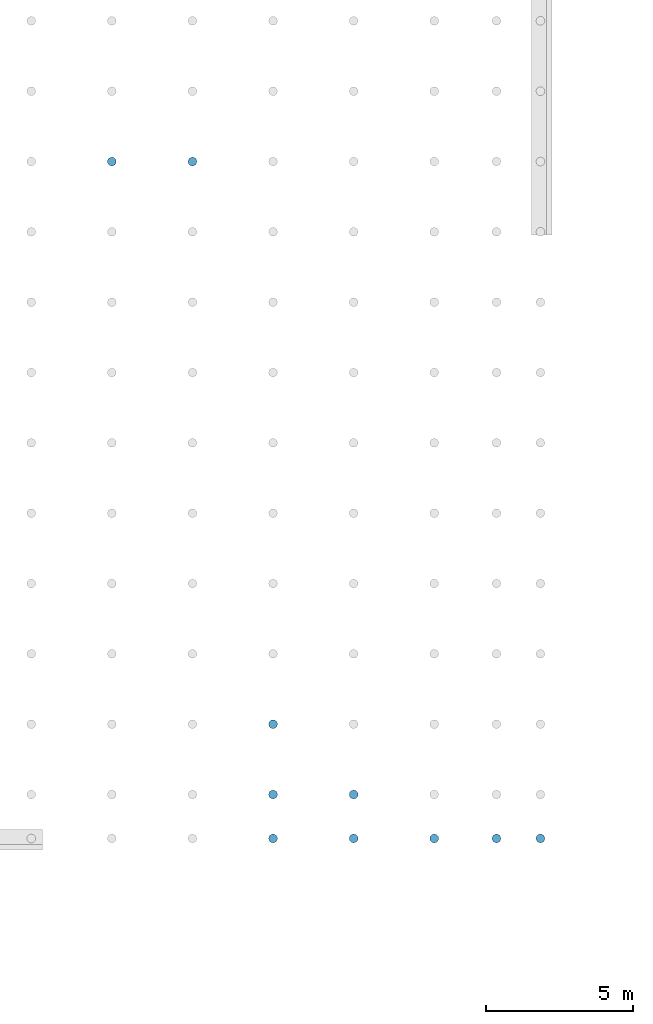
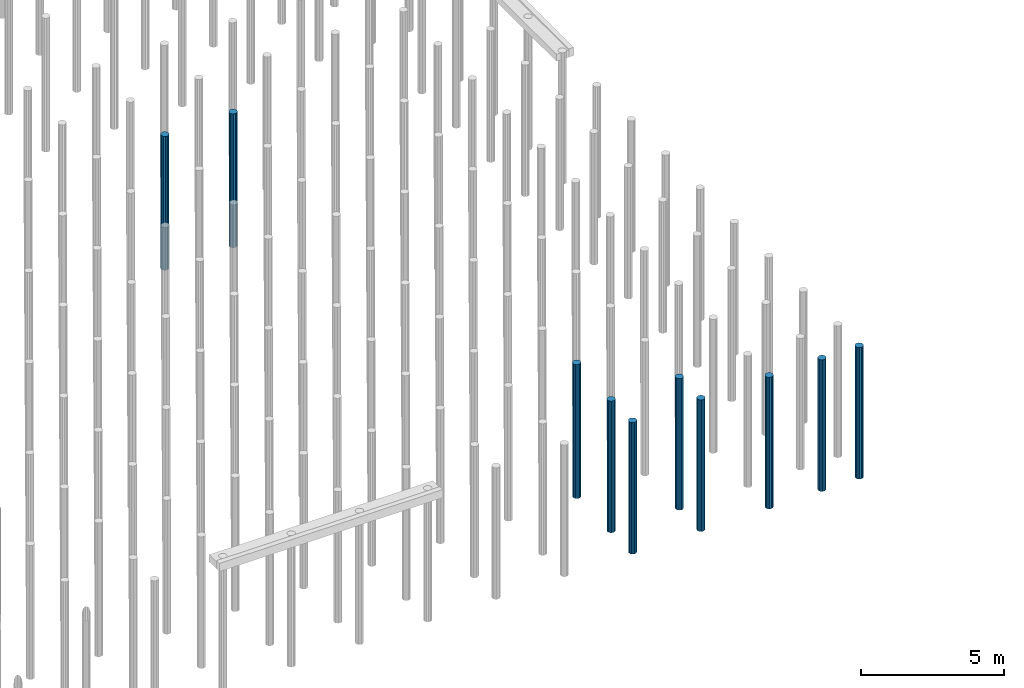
# One storey, part 18 of 102: 10 slabs.
"""IFC2X3 building model written with IfcOpenShell, lengths in millimetres."""

import ifcopenshell
import ifcopenshell.guid

model = None  # the IFC model being written
_history = None  # IfcOwnerHistory: only IFC2X3 demands one
_inside = {}  # id of a spatial element -> (the spatial element, [elements in it])
_under = {}  # id of a project, library or spatial element -> (it, [spatial elements below it])
_declared = {}  # id of a project -> (the project, [libraries it declares])
_typed = {}  # id of a type object -> (the type object, [elements of that type])
_made_of = {}  # id of a material, layer set ... -> (it, [elements and type objects made of it])


def new_model(schema):
    """Start an empty IFC model of exactly this schema.

    Asked for "IFC4X3", IfcOpenShell would pick the latest addendum, in which some entities
    have other attributes; the version numbers below select the first issue.
    IFC2X3 requires an IfcOwnerHistory on every rooted entity: one is made here for all.
    """
    global model, _history
    if schema == "IFC4X3":
        model = ifcopenshell.file(schema_version=(4, 3, 0, 0))
    else:
        model = ifcopenshell.file(schema=schema)
    _inside.clear()
    _under.clear()
    _declared.clear()
    _typed.clear()
    _made_of.clear()
    _history = None
    if model.schema == "IFC2X3":
        org = make("IfcOrganization", Name="unknown")
        user = make(
            "IfcPersonAndOrganization",
            ThePerson=make("IfcPerson", FamilyName="unknown"),
            TheOrganization=org,
        )
        app = make(
            "IfcApplication",
            ApplicationDeveloper=org,
            Version="unknown",
            ApplicationFullName="unknown",
            ApplicationIdentifier="unknown",
        )
        _history = make(
            "IfcOwnerHistory",
            OwningUser=user,
            OwningApplication=app,
            ChangeAction="ADDED",
            CreationDate=0,
        )
    return model


def make(cls, **values):
    """One entity of the class cls with the attributes given. An attribute that is None is left unset."""
    return model.create_entity(
        cls, **{name: value for name, value in values.items() if value is not None}
    )


def entity(cls, *values):
    """Any entity or typed value of the class cls, its attributes in the order of the schema. None: left unset."""
    e = model.create_entity(cls)
    for i, value in enumerate(values):
        if value is not None:
            e[i] = value
    return e


def rooted(cls, **values):
    """An entity with a GlobalId (a new one), such as an element, a storey or a relation."""
    return make(cls, GlobalId=ifcopenshell.guid.new(), OwnerHistory=_history, **values)


def si_unit(unit_type, name, prefix=None):
    """IfcSIUnit, for example si_unit("LENGTHUNIT", "METRE", prefix="MILLI")."""
    return make("IfcSIUnit", UnitType=unit_type, Prefix=prefix, Name=name)


def converted_unit(unit_type, name, factor, base, dimensions=None, offset=None):
    """IfcConversionBasedUnit, such as the inch: factor (a typed value) times the base unit."""
    return make(
        "IfcConversionBasedUnit"
        if offset is None
        else "IfcConversionBasedUnitWithOffset",
        ConversionOffset=offset,
        Dimensions=None
        if dimensions is None
        else entity("IfcDimensionalExponents", *dimensions),
        UnitType=unit_type,
        Name=name,
        ConversionFactor=make(
            "IfcMeasureWithUnit", ValueComponent=factor, UnitComponent=base
        ),
    )


def derived_unit(unit_type, elements):
    """IfcDerivedUnit: a product of units, each with its exponent."""
    return make(
        "IfcDerivedUnit",
        Elements=[
            make("IfcDerivedUnitElement", Unit=unit, Exponent=power)
            for unit, power in elements
        ],
        UnitType=unit_type,
    )


def money_unit(currency):
    """IfcMonetaryUnit."""
    return make("IfcMonetaryUnit", Currency=currency)


def assignment(units):
    """IfcUnitAssignment: the units of a project."""
    return None if units is None else make("IfcUnitAssignment", Units=units)


def point(xyz):
    """IfcCartesianPoint."""
    return None if xyz is None else make("IfcCartesianPoint", Coordinates=xyz)


def direction(xyz):
    """IfcDirection."""
    return None if xyz is None else make("IfcDirection", DirectionRatios=xyz)


def frame(location, z_axis=None, x_axis=None):
    """IfcAxis2Placement3D, a coordinate frame: its origin and axes. An axis left out is left unset."""
    return make(
        "IfcAxis2Placement3D",
        Location=point(location),
        Axis=direction(z_axis),
        RefDirection=direction(x_axis),
    )


def origin_with_axes():
    """The frame at (0, 0, 0) with the z axis (0, 0, 1) and the x axis (1, 0, 0) written out."""
    return frame((0.0, 0.0, 0.0), z_axis=(0.0, 0.0, 1.0), x_axis=(1.0, 0.0, 0.0))


def place(relative_to, where):
    """IfcLocalPlacement: puts the frame where relative to a parent placement (None: the world)."""
    return make(
        "IfcLocalPlacement", PlacementRelTo=relative_to, RelativePlacement=where
    )


def context(
    kind, dimensions, precision=None, world=None, true_north=None, identifier=None
):
    """IfcGeometricRepresentationContext, for example the 3D "Model" context."""
    return make(
        "IfcGeometricRepresentationContext",
        ContextIdentifier=identifier,
        ContextType=kind,
        CoordinateSpaceDimension=dimensions,
        Precision=precision,
        WorldCoordinateSystem=world,
        TrueNorth=true_north,
    )


def subcontext(parent, identifier, kind, view, scale=None):
    """IfcGeometricRepresentationSubContext, for example "Body" below "Model"."""
    return make(
        "IfcGeometricRepresentationSubContext",
        ContextIdentifier=identifier,
        ContextType=kind,
        ParentContext=parent,
        TargetScale=scale,
        TargetView=view,
    )


def project(units=None, contexts=None):
    """IfcProject with its units and contexts."""
    return rooted(
        "IfcProject",
        Name="project",
        RepresentationContexts=contexts,
        UnitsInContext=assignment(units),
    )


def spatial(cls, under=None, at=None, **own):
    """A site, building, storey or space (cls), placed at a placement, below another one or the project."""
    s = rooted(cls, ObjectPlacement=at, **own)
    if under is not None:
        _under.setdefault(under.id(), (under, []))[1].append(s)
    return s


def faces_of(points, faces, orient=None, outer=None):
    """IfcFace entities. A face is a list of loops; a loop is a list of indices into points, from 0.

    orient and outer hold one flag for each loop. By default every Orientation is true, the
    first loop of a face is its IfcFaceOuterBound and the others are IfcFaceBound.
    """
    made = []
    for i, loops in enumerate(faces):
        bounds = []
        for j, loop in enumerate(loops):
            is_outer = j == 0 if outer is None else outer[i][j]
            bounds.append(
                make(
                    "IfcFaceOuterBound" if is_outer else "IfcFaceBound",
                    Bound=make("IfcPolyLoop", Polygon=[points[k] for k in loop]),
                    Orientation=True if orient is None else orient[i][j],
                )
            )
        made.append(make("IfcFace", Bounds=bounds))
    return made


def faceted_brep(points, faces, orient=None, outer=None, voids=None):
    """IfcFacetedBrep: a solid bounded by flat faces; with voids (closed shells), ...WithVoids."""
    shared = [point(p) for p in points]
    hull = make("IfcClosedShell", CfsFaces=faces_of(shared, faces, orient, outer))
    if voids is None:
        return make("IfcFacetedBrep", Outer=hull)
    return make(
        "IfcFacetedBrepWithVoids",
        Outer=hull,
        Voids=[
            make(cls, CfsFaces=faces_of(shared, fs, o, b)) for cls, fs, o, b in voids
        ],
    )


def shape(context_of_items, identifier, shape_type, items):
    """IfcShapeRepresentation: the items that make up one representation, for example the "Body"."""
    return make(
        "IfcShapeRepresentation",
        ContextOfItems=context_of_items,
        RepresentationIdentifier=identifier,
        RepresentationType=shape_type,
        Items=items,
    )


def material(Name=None, Category=None):
    """IfcMaterial."""
    return make("IfcMaterial", Name=Name, Category=Category)


def made_of(thing, what):
    """Note that an element or type object is made of a material, layer set ...; save() writes the relation."""
    if what is not None:
        _made_of.setdefault(what.id(), (what, []))[1].append(thing)
    return thing


def type_object(cls, material=None, **own):
    """A type object (cls), such as IfcWallType, which elements share."""
    return made_of(rooted(cls, **own), material)


def element(
    cls,
    number,
    at=None,
    inside=None,
    cuts=None,
    type_object=None,
    material=None,
    context=None,
    identifier="Body",
    shape_type=None,
    held_by="IfcProductDefinitionShape",
    body=None,
    shapes=None,
    **own,
):
    """One element of the class cls, such as IfcWall. Its Tag is "e" and its number.

    at: its placement. inside: the storey or other place that contains it. cuts: it is an
    opening in that element (IfcRelVoidsElement). A single representation is given by context,
    identifier, shape_type and body (its items); several are given by shapes. held_by: the class
    of the entity that holds the representations. save() writes the other relations.
    """
    e = rooted(cls, Tag="e%d" % number, ObjectPlacement=at, **own)
    if body is not None:
        shapes = [shape(context, identifier, shape_type, body)]
    if shapes is not None:
        e.Representation = make(held_by, Representations=shapes)
    if inside is not None:
        _inside.setdefault(inside.id(), (inside, []))[1].append(e)
    if cuts is not None:
        rooted(
            "IfcRelVoidsElement", RelatingBuildingElement=cuts, RelatedOpeningElement=e
        )
    if type_object is not None:
        _typed.setdefault(type_object.id(), (type_object, []))[1].append(e)
    return made_of(e, material)


def aggregate(whole, parts):
    """IfcRelAggregates: a whole, such as a stair, and the parts it consists of."""
    return rooted("IfcRelAggregates", RelatingObject=whole, RelatedObjects=parts)


def save(model, path):
    """Write the relations noted so far, then the file.

    IfcRelAggregates (storeys below a building ...), IfcRelContainedInSpatialStructure (elements
    in a storey), IfcRelDefinesByType, IfcRelAssociatesMaterial and IfcRelDeclares: one each for
    every whole, place, type object, material and project.
    """
    for whole, parts in _under.values():
        aggregate(whole, parts)
    for where, things in _inside.values():
        rooted(
            "IfcRelContainedInSpatialStructure",
            RelatedElements=things,
            RelatingStructure=where,
        )
    for kind, things in _typed.values():
        rooted("IfcRelDefinesByType", RelatedObjects=things, RelatingType=kind)
    for what, things in _made_of.values():
        rooted("IfcRelAssociatesMaterial", RelatedObjects=things, RelatingMaterial=what)
    for by, libraries in _declared.values():
        rooted("IfcRelDeclares", RelatingContext=by, RelatedDefinitions=libraries)
    model.write(path)


model = new_model("IFC2X3")

# Units and contexts
model_context = context("Model", 3, precision=0.01, world=origin_with_axes(), true_north=direction((0.0, 1.0)))
body_context = subcontext(model_context, "Body", "Model", "MODEL_VIEW")
ifc_project = project(units=[si_unit("LENGTHUNIT", "METRE", prefix="MILLI"), si_unit("AREAUNIT", "SQUARE_METRE"), si_unit("VOLUMEUNIT", "CUBIC_METRE"), converted_unit("PLANEANGLEUNIT", "DEGREE", entity("IfcPlaneAngleMeasure", 0.0174532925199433), si_unit("PLANEANGLEUNIT", "RADIAN"), dimensions=[0, 0, 0, 0, 0, 0, 0]), money_unit("EUR"), converted_unit("TIMEUNIT", "Year", entity("IfcTimeMeasure", 31557600.0), si_unit("TIMEUNIT", "SECOND"), dimensions=[0, 0, 1, 0, 0, 0, 0]), si_unit("MASSUNIT", "GRAM", prefix="KILO"), si_unit("THERMODYNAMICTEMPERATUREUNIT", "DEGREE_CELSIUS"), si_unit("LUMINOUSINTENSITYUNIT", "LUMEN"), si_unit("ENERGYUNIT", "JOULE", prefix="MEGA"), derived_unit("THERMALCONDUCTANCEUNIT", [(si_unit("POWERUNIT", "WATT"), 1), (si_unit("LENGTHUNIT", "METRE"), -1), (si_unit("THERMODYNAMICTEMPERATUREUNIT", "KELVIN"), -1)]), derived_unit("SPECIFICHEATCAPACITYUNIT", [(si_unit("ENERGYUNIT", "JOULE"), 1), (si_unit("MASSUNIT", "GRAM", prefix="KILO"), -1), (si_unit("THERMODYNAMICTEMPERATUREUNIT", "KELVIN"), -1)]), derived_unit("MASSDENSITYUNIT", [(si_unit("MASSUNIT", "GRAM", prefix="KILO"), 1), (si_unit("VOLUMEUNIT", "CUBIC_METRE"), -1)])], contexts=[model_context])

# Site, building, storey
site_placement = place(None, origin_with_axes())
site = spatial("IfcSite", under=ifc_project, at=site_placement, Name="Site", CompositionType="ELEMENT")
building_placement = place(site_placement, origin_with_axes())
building = spatial("IfcBuilding", under=site, at=building_placement, Name="Naam gebouw", CompositionType="ELEMENT")
storey_placement = place(building_placement, frame((0.0, 0.0, -1020.0), z_axis=(0.0, 0.0, 1.0), x_axis=(1.0, 0.0, 0.0)))
storey = spatial("IfcBuildingStorey", under=building, at=storey_placement, Name="-2 fundering", CompositionType="ELEMENT", Elevation=-1020.0)

# Slabs
ifc_material = material(Name="WSP_beton - ihwg beton")
slab_type_1 = type_object("IfcSlabType", Name="Slab 66", PredefinedType="NOTDEFINED")
slab_1_placement = place(storey_placement, frame((25299.99999999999, 30000.0, 979.9999952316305), z_axis=(0.0, 0.0, 1.0), x_axis=(1.0, 0.0, 0.0)))
element("IfcSlab", 1, at=slab_1_placement, inside=storey, type_object=slab_type_1, material=ifc_material, Name="17_WSP_FD_beton - fundatiepaal v21-2:ø300 (schroef)", PredefinedType="NOTDEFINED", context=body_context, shape_type="Brep", body=[
    faceted_brep([(28476.0, 23201.0, -5980.0), (28474.0, 23201.0, -5980.0), (28474.0, 23201.0, -5978.000000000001), (28476.0, 23201.0, -5978.000000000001), (28476.0, 23199.0, -5980.0), (28474.0, 23199.0, -5980.0), (28474.0, 23199.0, -5978.000000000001), (28476.0, 23199.0, -5978.000000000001)], [[[0, 1, 2, 3]], [[0, 4, 5, 1]], [[1, 5, 6, 2]], [[3, 2, 6, 7]], [[4, 0, 3, 7]], [[5, 4, 7, 6]]]),
    faceted_brep([(28325.0, 23200.0, -5980.0), (28336.41807012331, 23142.59748514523, -5980.0), (28336.41807012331, 23142.59748514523, -280.0000000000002), (28325.0, 23200.0, -280.0000000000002), (28336.41807012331, 23257.40251485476, -5980.0), (28368.93398282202, 23306.06601717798, -5980.0), (28417.59748514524, 23338.58192987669, -5980.0), (28475.0, 23350.0, -5980.0), (28532.40251485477, 23338.58192987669, -5980.0), (28581.06601717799, 23306.06601717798, -5980.0), (28613.58192987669, 23257.40251485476, -5980.0), (28625.0, 23200.0, -5980.0), (28613.58192987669, 23142.59748514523, -5980.0), (28581.06601717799, 23093.93398282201, -5980.0), (28532.40251485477, 23061.41807012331, -5980.0), (28475.0, 23050.0, -5980.0), (28417.59748514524, 23061.41807012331, -5980.0), (28368.93398282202, 23093.93398282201, -5980.0), (28368.93398282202, 23093.93398282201, -280.0000000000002), (28417.59748514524, 23061.41807012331, -280.0000000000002), (28475.0, 23050.0, -280.0000000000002), (28532.40251485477, 23061.41807012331, -280.0000000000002), (28581.06601717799, 23093.93398282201, -280.0000000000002), (28613.58192987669, 23142.59748514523, -280.0000000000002), (28625.0, 23200.0, -280.0000000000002), (28613.58192987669, 23257.40251485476, -280.0000000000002), (28581.06601717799, 23306.06601717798, -280.0000000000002), (28532.40251485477, 23338.58192987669, -280.0000000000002), (28475.0, 23350.0, -280.0000000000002), (28417.59748514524, 23338.58192987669, -280.0000000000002), (28368.93398282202, 23306.06601717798, -280.0000000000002), (28336.41807012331, 23257.40251485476, -280.0000000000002)], [[[0, 1, 2, 3]], [[0, 4, 5, 6, 7, 8, 9, 10, 11, 12, 13, 14, 15, 16, 17, 1]], [[1, 17, 18, 2]], [[3, 2, 18, 19, 20, 21, 22, 23, 24, 25, 26, 27, 28, 29, 30, 31]], [[4, 0, 3, 31]], [[5, 4, 31, 30]], [[6, 5, 30, 29]], [[7, 6, 29, 28]], [[8, 7, 28, 27]], [[9, 8, 27, 26]], [[10, 9, 26, 25]], [[11, 10, 25, 24]], [[12, 11, 24, 23]], [[13, 12, 23, 22]], [[14, 13, 22, 21]], [[15, 14, 21, 20]], [[16, 15, 20, 19]], [[17, 16, 19, 18]]]),
])
slab_type_2 = type_object("IfcSlabType", Name="Slab 69", PredefinedType="NOTDEFINED")
slab_2_placement = place(storey_placement, frame((25299.99999999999, 30000.0, 979.9999952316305), z_axis=(0.0, 0.0, 1.0), x_axis=(1.0, 0.0, 0.0)))
element("IfcSlab", 2, at=slab_2_placement, inside=storey, type_object=slab_type_2, material=ifc_material, Name="17_WSP_FD_beton - fundatiepaal v21-2:ø300 (schroef)", PredefinedType="NOTDEFINED", context=body_context, shape_type="Brep", body=[
    faceted_brep([(31226.0, 23201.0, -5980.0), (31224.0, 23201.0, -5980.0), (31224.0, 23201.0, -5978.000000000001), (31226.0, 23201.0, -5978.000000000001), (31226.0, 23199.0, -5980.0), (31224.0, 23199.0, -5980.0), (31224.0, 23199.0, -5978.000000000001), (31226.0, 23199.0, -5978.000000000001)], [[[0, 1, 2, 3]], [[0, 4, 5, 1]], [[1, 5, 6, 2]], [[3, 2, 6, 7]], [[4, 0, 3, 7]], [[5, 4, 7, 6]]]),
    faceted_brep([(31075.0, 23200.0, -5980.0), (31086.41807012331, 23142.59748514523, -5980.0), (31086.41807012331, 23142.59748514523, -280.0000000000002), (31075.0, 23200.0, -280.0000000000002), (31086.41807012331, 23257.40251485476, -5980.0), (31118.93398282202, 23306.06601717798, -5980.0), (31167.59748514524, 23338.58192987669, -5980.0), (31225.0, 23350.0, -5980.0), (31282.40251485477, 23338.58192987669, -5980.0), (31331.06601717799, 23306.06601717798, -5980.0), (31363.58192987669, 23257.40251485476, -5980.0), (31375.0, 23200.0, -5980.0), (31363.58192987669, 23142.59748514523, -5980.0), (31331.06601717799, 23093.93398282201, -5980.0), (31282.40251485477, 23061.41807012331, -5980.0), (31225.0, 23050.0, -5980.0), (31167.59748514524, 23061.41807012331, -5980.0), (31118.93398282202, 23093.93398282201, -5980.0), (31118.93398282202, 23093.93398282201, -280.0000000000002), (31167.59748514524, 23061.41807012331, -280.0000000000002), (31225.0, 23050.0, -280.0000000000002), (31282.40251485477, 23061.41807012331, -280.0000000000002), (31331.06601717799, 23093.93398282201, -280.0000000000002), (31363.58192987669, 23142.59748514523, -280.0000000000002), (31375.0, 23200.0, -280.0000000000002), (31363.58192987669, 23257.40251485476, -280.0000000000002), (31331.06601717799, 23306.06601717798, -280.0000000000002), (31282.40251485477, 23338.58192987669, -280.0000000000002), (31225.0, 23350.0, -280.0000000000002), (31167.59748514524, 23338.58192987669, -280.0000000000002), (31118.93398282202, 23306.06601717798, -280.0000000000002), (31086.41807012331, 23257.40251485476, -280.0000000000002)], [[[0, 1, 2, 3]], [[0, 4, 5, 6, 7, 8, 9, 10, 11, 12, 13, 14, 15, 16, 17, 1]], [[1, 17, 18, 2]], [[3, 2, 18, 19, 20, 21, 22, 23, 24, 25, 26, 27, 28, 29, 30, 31]], [[4, 0, 3, 31]], [[5, 4, 31, 30]], [[6, 5, 30, 29]], [[7, 6, 29, 28]], [[8, 7, 28, 27]], [[9, 8, 27, 26]], [[10, 9, 26, 25]], [[11, 10, 25, 24]], [[12, 11, 24, 23]], [[13, 12, 23, 22]], [[14, 13, 22, 21]], [[15, 14, 21, 20]], [[16, 15, 20, 19]], [[17, 16, 19, 18]]]),
])
slab_type_3 = type_object("IfcSlabType", Name="Slab 241", PredefinedType="NOTDEFINED")
slab_3_placement = place(storey_placement, frame((25299.99999999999, 30000.0, 979.9999952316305), z_axis=(0.0, 0.0, 1.0), x_axis=(1.0, 0.0, 0.0)))
element("IfcSlab", 3, at=slab_3_placement, inside=storey, type_object=slab_type_3, material=ifc_material, Name="17_WSP_FD_beton - fundatiepaal v21-2:ø300 (schroef)", PredefinedType="NOTDEFINED", context=body_context, shape_type="Brep", body=[
    faceted_brep([(33976.0, 1601.0, -5980.0), (33974.00000000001, 1601.0, -5980.0), (33974.00000000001, 1601.0, -5978.000000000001), (33976.0, 1601.0, -5978.000000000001), (33976.0, 1599.0, -5980.0), (33974.00000000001, 1599.0, -5980.0), (33974.00000000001, 1599.0, -5978.000000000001), (33976.0, 1599.0, -5978.000000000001)], [[[0, 1, 2, 3]], [[0, 4, 5, 1]], [[1, 5, 6, 2]], [[3, 2, 6, 7]], [[4, 0, 3, 7]], [[5, 4, 7, 6]]]),
    faceted_brep([(33825.0, 1600.0, -5980.0), (33836.41807012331, 1542.597485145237, -5980.0), (33836.41807012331, 1542.597485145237, -380.0000000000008), (33825.0, 1600.0, -380.0000000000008), (33836.41807012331, 1657.402514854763, -5980.0), (33868.93398282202, 1706.066017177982, -5980.0), (33917.59748514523, 1738.581929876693, -5980.0), (33975.0, 1750.0, -5980.0), (34032.40251485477, 1738.581929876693, -5980.0), (34081.06601717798, 1706.066017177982, -5980.0), (34113.58192987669, 1657.402514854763, -5980.0), (34125.0, 1600.0, -5980.0), (34113.58192987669, 1542.597485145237, -5980.0), (34081.06601717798, 1493.933982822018, -5980.0), (34032.40251485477, 1461.418070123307, -5980.0), (33975.0, 1450.0, -5980.0), (33917.59748514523, 1461.418070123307, -5980.0), (33868.93398282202, 1493.933982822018, -5980.0), (33868.93398282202, 1493.933982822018, -380.0000000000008), (33917.59748514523, 1461.418070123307, -380.0000000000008), (33975.0, 1450.0, -380.0000000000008), (34032.40251485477, 1461.418070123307, -380.0000000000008), (34081.06601717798, 1493.933982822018, -380.0000000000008), (34113.58192987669, 1542.597485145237, -380.0000000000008), (34125.0, 1600.0, -380.0000000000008), (34113.58192987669, 1657.402514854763, -380.0000000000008), (34081.06601717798, 1706.066017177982, -380.0000000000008), (34032.40251485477, 1738.581929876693, -380.0000000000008), (33975.0, 1750.0, -380.0000000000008), (33917.59748514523, 1738.581929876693, -380.0000000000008), (33868.93398282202, 1706.066017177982, -380.0000000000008), (33836.41807012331, 1657.402514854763, -380.0000000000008)], [[[0, 1, 2, 3]], [[0, 4, 5, 6, 7, 8, 9, 10, 11, 12, 13, 14, 15, 16, 17, 1]], [[1, 17, 18, 2]], [[3, 2, 18, 19, 20, 21, 22, 23, 24, 25, 26, 27, 28, 29, 30, 31]], [[4, 0, 3, 31]], [[5, 4, 31, 30]], [[6, 5, 30, 29]], [[7, 6, 29, 28]], [[8, 7, 28, 27]], [[9, 8, 27, 26]], [[10, 9, 26, 25]], [[11, 10, 25, 24]], [[12, 11, 24, 23]], [[13, 12, 23, 22]], [[14, 13, 22, 21]], [[15, 14, 21, 20]], [[16, 15, 20, 19]], [[17, 16, 19, 18]]]),
])
slab_type_4 = type_object("IfcSlabType", Name="Slab 244", PredefinedType="NOTDEFINED")
slab_4_placement = place(storey_placement, frame((25299.99999999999, 30000.0, 979.9999952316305), z_axis=(0.0, 0.0, 1.0), x_axis=(1.0, 0.0, 0.0)))
element("IfcSlab", 4, at=slab_4_placement, inside=storey, type_object=slab_type_4, material=ifc_material, Name="17_WSP_FD_beton - fundatiepaal v21-2:ø300 (schroef)", PredefinedType="NOTDEFINED", context=body_context, shape_type="Brep", body=[
    faceted_brep([(36726.0, 1601.0, -5980.0), (36724.00000000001, 1601.0, -5980.0), (36724.00000000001, 1601.0, -5978.000000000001), (36726.0, 1601.0, -5978.000000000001), (36726.0, 1599.0, -5980.0), (36724.00000000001, 1599.0, -5980.0), (36724.00000000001, 1599.0, -5978.000000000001), (36726.0, 1599.0, -5978.000000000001)], [[[0, 1, 2, 3]], [[0, 4, 5, 1]], [[1, 5, 6, 2]], [[3, 2, 6, 7]], [[4, 0, 3, 7]], [[5, 4, 7, 6]]]),
    faceted_brep([(36575.0, 1600.0, -5980.0), (36586.41807012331, 1542.597485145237, -5980.0), (36586.41807012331, 1542.597485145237, -380.0000000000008), (36575.0, 1600.0, -380.0000000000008), (36586.41807012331, 1657.402514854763, -5980.0), (36618.93398282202, 1706.066017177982, -5980.0), (36667.59748514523, 1738.581929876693, -5980.0), (36725.0, 1750.0, -5980.0), (36782.40251485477, 1738.581929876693, -5980.0), (36831.06601717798, 1706.066017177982, -5980.0), (36863.58192987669, 1657.402514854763, -5980.0), (36875.0, 1600.0, -5980.0), (36863.58192987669, 1542.597485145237, -5980.0), (36831.06601717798, 1493.933982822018, -5980.0), (36782.40251485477, 1461.418070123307, -5980.0), (36725.0, 1450.0, -5980.0), (36667.59748514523, 1461.418070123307, -5980.0), (36618.93398282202, 1493.933982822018, -5980.0), (36618.93398282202, 1493.933982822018, -380.0000000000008), (36667.59748514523, 1461.418070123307, -380.0000000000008), (36725.0, 1450.0, -380.0000000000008), (36782.40251485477, 1461.418070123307, -380.0000000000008), (36831.06601717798, 1493.933982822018, -380.0000000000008), (36863.58192987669, 1542.597485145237, -380.0000000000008), (36875.0, 1600.0, -380.0000000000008), (36863.58192987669, 1657.402514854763, -380.0000000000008), (36831.06601717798, 1706.066017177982, -380.0000000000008), (36782.40251485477, 1738.581929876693, -380.0000000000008), (36725.0, 1750.0, -380.0000000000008), (36667.59748514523, 1738.581929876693, -380.0000000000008), (36618.93398282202, 1706.066017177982, -380.0000000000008), (36586.41807012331, 1657.402514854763, -380.0000000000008)], [[[0, 1, 2, 3]], [[0, 4, 5, 6, 7, 8, 9, 10, 11, 12, 13, 14, 15, 16, 17, 1]], [[1, 17, 18, 2]], [[3, 2, 18, 19, 20, 21, 22, 23, 24, 25, 26, 27, 28, 29, 30, 31]], [[4, 0, 3, 31]], [[5, 4, 31, 30]], [[6, 5, 30, 29]], [[7, 6, 29, 28]], [[8, 7, 28, 27]], [[9, 8, 27, 26]], [[10, 9, 26, 25]], [[11, 10, 25, 24]], [[12, 11, 24, 23]], [[13, 12, 23, 22]], [[14, 13, 22, 21]], [[15, 14, 21, 20]], [[16, 15, 20, 19]], [[17, 16, 19, 18]]]),
])
slab_type_5 = type_object("IfcSlabType", Name="Slab 341", PredefinedType="NOTDEFINED")
slab_5_placement = place(storey_placement, frame((25299.99999999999, 30000.0, 979.9999952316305), z_axis=(0.0, 0.0, 1.0), x_axis=(1.0, 0.0, 0.0)))
element("IfcSlab", 5, at=slab_5_placement, inside=storey, type_object=slab_type_5, material=ifc_material, Name="17_WSP_FD_beton - fundatiepaal v21-2:ø300 (schroef)", PredefinedType="NOTDEFINED", context=body_context, shape_type="Brep", body=[
    faceted_brep([(33976.0, 4001.0, -5980.0), (33974.00000000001, 4001.0, -5980.0), (33974.00000000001, 4001.0, -5978.000000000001), (33976.0, 4001.0, -5978.000000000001), (33976.0, 3999.0, -5980.0), (33974.00000000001, 3999.0, -5980.0), (33974.00000000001, 3999.0, -5978.000000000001), (33976.0, 3999.0, -5978.000000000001)], [[[0, 1, 2, 3]], [[0, 4, 5, 1]], [[1, 5, 6, 2]], [[3, 2, 6, 7]], [[4, 0, 3, 7]], [[5, 4, 7, 6]]]),
    faceted_brep([(33825.0, 4000.0, -5980.0), (33836.41807012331, 3942.597485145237, -5980.0), (33836.41807012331, 3942.597485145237, -280.0000000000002), (33825.0, 4000.0, -280.0000000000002), (33836.41807012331, 4057.402514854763, -5980.0), (33868.93398282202, 4106.066017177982, -5980.0), (33917.59748514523, 4138.581929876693, -5980.0), (33975.0, 4150.0, -5980.0), (34032.40251485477, 4138.581929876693, -5980.0), (34081.06601717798, 4106.066017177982, -5980.0), (34113.58192987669, 4057.402514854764, -5980.0), (34125.0, 4000.0, -5980.0), (34113.58192987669, 3942.597485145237, -5980.0), (34081.06601717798, 3893.933982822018, -5980.0), (34032.40251485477, 3861.418070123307, -5980.0), (33975.0, 3850.0, -5980.0), (33917.59748514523, 3861.418070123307, -5980.0), (33868.93398282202, 3893.933982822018, -5980.0), (33868.93398282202, 3893.933982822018, -280.0000000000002), (33917.59748514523, 3861.418070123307, -280.0000000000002), (33975.0, 3850.0, -280.0000000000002), (34032.40251485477, 3861.418070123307, -280.0000000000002), (34081.06601717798, 3893.933982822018, -280.0000000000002), (34113.58192987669, 3942.597485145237, -280.0000000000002), (34125.0, 4000.0, -280.0000000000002), (34113.58192987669, 4057.402514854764, -280.0000000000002), (34081.06601717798, 4106.066017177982, -280.0000000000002), (34032.40251485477, 4138.581929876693, -280.0000000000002), (33975.0, 4150.0, -280.0000000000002), (33917.59748514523, 4138.581929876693, -280.0000000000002), (33868.93398282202, 4106.066017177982, -280.0000000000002), (33836.41807012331, 4057.402514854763, -280.0000000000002)], [[[0, 1, 2, 3]], [[0, 4, 5, 6, 7, 8, 9, 10, 11, 12, 13, 14, 15, 16, 17, 1]], [[1, 17, 18, 2]], [[3, 2, 18, 19, 20, 21, 22, 23, 24, 25, 26, 27, 28, 29, 30, 31]], [[4, 0, 3, 31]], [[5, 4, 31, 30]], [[6, 5, 30, 29]], [[7, 6, 29, 28]], [[8, 7, 28, 27]], [[9, 8, 27, 26]], [[10, 9, 26, 25]], [[11, 10, 25, 24]], [[12, 11, 24, 23]], [[13, 12, 23, 22]], [[14, 13, 22, 21]], [[15, 14, 21, 20]], [[16, 15, 20, 19]], [[17, 16, 19, 18]]]),
])
slab_type_6 = type_object("IfcSlabType", Name="Slab 384", PredefinedType="NOTDEFINED")
slab_6_placement = place(storey_placement, frame((25299.99999999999, 30000.0, 979.9999952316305), z_axis=(0.0, 0.0, 1.0), x_axis=(1.0, 0.0, 0.0)))
element("IfcSlab", 6, at=slab_6_placement, inside=storey, type_object=slab_type_6, material=ifc_material, Name="17_WSP_FD_beton - fundatiepaal v21-2:ø300 (schroef)", PredefinedType="NOTDEFINED", context=body_context, shape_type="Brep", body=[
    faceted_brep([(33976.0, 101.0, -5980.0), (33974.00000000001, 101.0, -5980.0), (33974.00000000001, 101.0, -5978.000000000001), (33976.0, 101.0, -5978.000000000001), (33976.0, 99.0, -5980.0), (33974.00000000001, 99.0, -5980.0), (33974.00000000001, 99.0, -5978.000000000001), (33976.0, 99.0, -5978.000000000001)], [[[0, 1, 2, 3]], [[0, 4, 5, 1]], [[1, 5, 6, 2]], [[3, 2, 6, 7]], [[4, 0, 3, 7]], [[5, 4, 7, 6]]]),
    faceted_brep([(33825.0, 100.0, -5980.0), (33836.41807012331, 42.59748514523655, -5980.0), (33836.41807012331, 42.59748514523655, -380.0000000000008), (33825.0, 100.0, -380.0000000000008), (33836.41807012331, 157.4025148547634, -5980.0), (33868.93398282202, 206.0660171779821, -5980.0), (33917.59748514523, 238.581929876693, -5980.0), (33975.0, 250.0, -5980.0), (34032.40251485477, 238.581929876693, -5980.0), (34081.06601717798, 206.0660171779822, -5980.0), (34113.58192987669, 157.4025148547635, -5980.0), (34125.0, 100.0, -5980.0), (34113.58192987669, 42.59748514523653, -5980.0), (34081.06601717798, -6.066017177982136, -5980.0), (34032.40251485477, -38.58192987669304, -5980.0), (33975.0, -50.00000000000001, -5980.0), (33917.59748514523, -38.58192987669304, -5980.0), (33868.93398282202, -6.066017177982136, -5980.0), (33868.93398282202, -6.066017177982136, -380.0000000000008), (33917.59748514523, -38.58192987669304, -380.0000000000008), (33975.0, -50.00000000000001, -380.0000000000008), (34032.40251485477, -38.58192987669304, -380.0000000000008), (34081.06601717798, -6.066017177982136, -380.0000000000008), (34113.58192987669, 42.59748514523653, -380.0000000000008), (34125.0, 100.0, -380.0000000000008), (34113.58192987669, 157.4025148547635, -380.0000000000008), (34081.06601717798, 206.0660171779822, -380.0000000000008), (34032.40251485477, 238.581929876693, -380.0000000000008), (33975.0, 250.0, -380.0000000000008), (33917.59748514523, 238.581929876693, -380.0000000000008), (33868.93398282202, 206.0660171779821, -380.0000000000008), (33836.41807012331, 157.4025148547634, -380.0000000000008)], [[[0, 1, 2, 3]], [[0, 4, 5, 6, 7, 8, 9, 10, 11, 12, 13, 14, 15, 16, 17, 1]], [[1, 17, 18, 2]], [[3, 2, 18, 19, 20, 21, 22, 23, 24, 25, 26, 27, 28, 29, 30, 31]], [[4, 0, 3, 31]], [[5, 4, 31, 30]], [[6, 5, 30, 29]], [[7, 6, 29, 28]], [[8, 7, 28, 27]], [[9, 8, 27, 26]], [[10, 9, 26, 25]], [[11, 10, 25, 24]], [[12, 11, 24, 23]], [[13, 12, 23, 22]], [[14, 13, 22, 21]], [[15, 14, 21, 20]], [[16, 15, 20, 19]], [[17, 16, 19, 18]]]),
])
slab_type_7 = type_object("IfcSlabType", Name="Slab 386", PredefinedType="NOTDEFINED")
slab_7_placement = place(storey_placement, frame((25299.99999999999, 30000.0, 979.9999952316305), z_axis=(0.0, 0.0, 1.0), x_axis=(1.0, 0.0, 0.0)))
element("IfcSlab", 7, at=slab_7_placement, inside=storey, type_object=slab_type_7, material=ifc_material, Name="17_WSP_FD_beton - fundatiepaal v21-2:ø300 (schroef)", PredefinedType="NOTDEFINED", context=body_context, shape_type="Brep", body=[
    faceted_brep([(39476.0, 101.0, -5980.0), (39474.00000000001, 101.0, -5980.0), (39474.00000000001, 101.0, -5978.000000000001), (39476.0, 101.0, -5978.000000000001), (39476.0, 99.0, -5980.0), (39474.00000000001, 99.0, -5980.0), (39474.00000000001, 99.0, -5978.000000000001), (39476.0, 99.0, -5978.000000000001)], [[[0, 1, 2, 3]], [[0, 4, 5, 1]], [[1, 5, 6, 2]], [[3, 2, 6, 7]], [[4, 0, 3, 7]], [[5, 4, 7, 6]]]),
    faceted_brep([(39325.0, 100.0, -5980.0), (39336.41807012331, 42.59748514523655, -5980.0), (39336.41807012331, 42.59748514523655, -380.0000000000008), (39325.0, 100.0, -380.0000000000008), (39336.41807012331, 157.4025148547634, -5980.0), (39368.93398282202, 206.0660171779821, -5980.0), (39417.59748514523, 238.581929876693, -5980.0), (39475.0, 250.0, -5980.0), (39532.40251485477, 238.581929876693, -5980.0), (39581.06601717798, 206.0660171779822, -5980.0), (39613.58192987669, 157.4025148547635, -5980.0), (39625.0, 100.0, -5980.0), (39613.58192987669, 42.59748514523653, -5980.0), (39581.06601717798, -6.066017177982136, -5980.0), (39532.40251485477, -38.58192987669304, -5980.0), (39475.0, -50.00000000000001, -5980.0), (39417.59748514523, -38.58192987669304, -5980.0), (39368.93398282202, -6.066017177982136, -5980.0), (39368.93398282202, -6.066017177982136, -380.0000000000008), (39417.59748514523, -38.58192987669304, -380.0000000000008), (39475.0, -50.00000000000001, -380.0000000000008), (39532.40251485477, -38.58192987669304, -380.0000000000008), (39581.06601717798, -6.066017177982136, -380.0000000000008), (39613.58192987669, 42.59748514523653, -380.0000000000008), (39625.0, 100.0, -380.0000000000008), (39613.58192987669, 157.4025148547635, -380.0000000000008), (39581.06601717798, 206.0660171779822, -380.0000000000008), (39532.40251485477, 238.581929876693, -380.0000000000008), (39475.0, 250.0, -380.0000000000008), (39417.59748514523, 238.581929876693, -380.0000000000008), (39368.93398282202, 206.0660171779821, -380.0000000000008), (39336.41807012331, 157.4025148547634, -380.0000000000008)], [[[0, 1, 2, 3]], [[0, 4, 5, 6, 7, 8, 9, 10, 11, 12, 13, 14, 15, 16, 17, 1]], [[1, 17, 18, 2]], [[3, 2, 18, 19, 20, 21, 22, 23, 24, 25, 26, 27, 28, 29, 30, 31]], [[4, 0, 3, 31]], [[5, 4, 31, 30]], [[6, 5, 30, 29]], [[7, 6, 29, 28]], [[8, 7, 28, 27]], [[9, 8, 27, 26]], [[10, 9, 26, 25]], [[11, 10, 25, 24]], [[12, 11, 24, 23]], [[13, 12, 23, 22]], [[14, 13, 22, 21]], [[15, 14, 21, 20]], [[16, 15, 20, 19]], [[17, 16, 19, 18]]]),
])
slab_type_8 = type_object("IfcSlabType", Name="Slab 387", PredefinedType="NOTDEFINED")
slab_8_placement = place(storey_placement, frame((25299.99999999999, 30000.0, 979.9999952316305), z_axis=(0.0, 0.0, 1.0), x_axis=(1.0, 0.0, 0.0)))
element("IfcSlab", 8, at=slab_8_placement, inside=storey, type_object=slab_type_8, material=ifc_material, Name="17_WSP_FD_beton - fundatiepaal v21-2:ø300 (schroef)", PredefinedType="NOTDEFINED", context=body_context, shape_type="Brep", body=[
    faceted_brep([(36726.0, 101.0, -5980.0), (36724.00000000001, 101.0, -5980.0), (36724.00000000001, 101.0, -5978.000000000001), (36726.0, 101.0, -5978.000000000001), (36726.0, 99.0, -5980.0), (36724.00000000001, 99.0, -5980.0), (36724.00000000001, 99.0, -5978.000000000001), (36726.0, 99.0, -5978.000000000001)], [[[0, 1, 2, 3]], [[0, 4, 5, 1]], [[1, 5, 6, 2]], [[3, 2, 6, 7]], [[4, 0, 3, 7]], [[5, 4, 7, 6]]]),
    faceted_brep([(36575.0, 100.0, -5980.0), (36586.41807012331, 42.59748514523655, -5980.0), (36586.41807012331, 42.59748514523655, -380.0000000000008), (36575.0, 100.0, -380.0000000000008), (36586.41807012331, 157.4025148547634, -5980.0), (36618.93398282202, 206.0660171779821, -5980.0), (36667.59748514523, 238.581929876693, -5980.0), (36725.0, 250.0, -5980.0), (36782.40251485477, 238.581929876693, -5980.0), (36831.06601717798, 206.0660171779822, -5980.0), (36863.58192987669, 157.4025148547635, -5980.0), (36875.0, 100.0, -5980.0), (36863.58192987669, 42.59748514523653, -5980.0), (36831.06601717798, -6.066017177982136, -5980.0), (36782.40251485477, -38.58192987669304, -5980.0), (36725.0, -50.00000000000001, -5980.0), (36667.59748514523, -38.58192987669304, -5980.0), (36618.93398282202, -6.066017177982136, -5980.0), (36618.93398282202, -6.066017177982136, -380.0000000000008), (36667.59748514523, -38.58192987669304, -380.0000000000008), (36725.0, -50.00000000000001, -380.0000000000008), (36782.40251485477, -38.58192987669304, -380.0000000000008), (36831.06601717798, -6.066017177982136, -380.0000000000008), (36863.58192987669, 42.59748514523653, -380.0000000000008), (36875.0, 100.0, -380.0000000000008), (36863.58192987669, 157.4025148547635, -380.0000000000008), (36831.06601717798, 206.0660171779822, -380.0000000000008), (36782.40251485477, 238.581929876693, -380.0000000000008), (36725.0, 250.0, -380.0000000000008), (36667.59748514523, 238.581929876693, -380.0000000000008), (36618.93398282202, 206.0660171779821, -380.0000000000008), (36586.41807012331, 157.4025148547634, -380.0000000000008)], [[[0, 1, 2, 3]], [[0, 4, 5, 6, 7, 8, 9, 10, 11, 12, 13, 14, 15, 16, 17, 1]], [[1, 17, 18, 2]], [[3, 2, 18, 19, 20, 21, 22, 23, 24, 25, 26, 27, 28, 29, 30, 31]], [[4, 0, 3, 31]], [[5, 4, 31, 30]], [[6, 5, 30, 29]], [[7, 6, 29, 28]], [[8, 7, 28, 27]], [[9, 8, 27, 26]], [[10, 9, 26, 25]], [[11, 10, 25, 24]], [[12, 11, 24, 23]], [[13, 12, 23, 22]], [[14, 13, 22, 21]], [[15, 14, 21, 20]], [[16, 15, 20, 19]], [[17, 16, 19, 18]]]),
])
slab_type_9 = type_object("IfcSlabType", Name="Slab 932", PredefinedType="NOTDEFINED")
slab_9_placement = place(storey_placement, frame((25299.99999999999, 30000.0, 979.9999952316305), z_axis=(0.0, 0.0, 1.0), x_axis=(1.0, 0.0, 0.0)))
element("IfcSlab", 9, at=slab_9_placement, inside=storey, type_object=slab_type_9, material=ifc_material, Name="17_WSP_FD_beton - fundatiepaal v21-2:ø300 (schroef)", PredefinedType="NOTDEFINED", context=body_context, shape_type="Brep", body=[
    faceted_brep([(43101.0, 101.0, -5980.0), (43099.00000000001, 101.0, -5980.0), (43099.00000000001, 101.0, -5978.000000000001), (43101.0, 101.0, -5978.000000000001), (43101.0, 99.0, -5980.0), (43099.00000000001, 99.0, -5980.0), (43099.00000000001, 99.0, -5978.000000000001), (43101.0, 99.0, -5978.000000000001)], [[[0, 1, 2, 3]], [[0, 4, 5, 1]], [[1, 5, 6, 2]], [[3, 2, 6, 7]], [[4, 0, 3, 7]], [[5, 4, 7, 6]]]),
    faceted_brep([(42950.0, 100.0, -5980.0), (42961.41807012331, 42.59748514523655, -5980.0), (42961.41807012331, 42.59748514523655, -380.0000000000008), (42950.0, 100.0, -380.0000000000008), (42961.41807012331, 157.4025148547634, -5980.0), (42993.93398282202, 206.0660171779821, -5980.0), (43042.59748514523, 238.581929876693, -5980.0), (43100.0, 250.0, -5980.0), (43157.40251485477, 238.581929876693, -5980.0), (43206.06601717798, 206.0660171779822, -5980.0), (43238.58192987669, 157.4025148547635, -5980.0), (43250.0, 100.0, -5980.0), (43238.58192987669, 42.59748514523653, -5980.0), (43206.06601717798, -6.066017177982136, -5980.0), (43157.40251485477, -38.58192987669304, -5980.0), (43100.0, -50.00000000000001, -5980.0), (43042.59748514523, -38.58192987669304, -5980.0), (42993.93398282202, -6.066017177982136, -5980.0), (42993.93398282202, -6.066017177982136, -380.0000000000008), (43042.59748514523, -38.58192987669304, -380.0000000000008), (43100.0, -50.00000000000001, -380.0000000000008), (43157.40251485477, -38.58192987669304, -380.0000000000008), (43206.06601717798, -6.066017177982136, -380.0000000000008), (43238.58192987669, 42.59748514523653, -380.0000000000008), (43250.0, 100.0, -380.0000000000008), (43238.58192987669, 157.4025148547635, -380.0000000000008), (43206.06601717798, 206.0660171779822, -380.0000000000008), (43157.40251485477, 238.581929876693, -380.0000000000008), (43100.0, 250.0, -380.0000000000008), (43042.59748514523, 238.581929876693, -380.0000000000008), (42993.93398282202, 206.0660171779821, -380.0000000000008), (42961.41807012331, 157.4025148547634, -380.0000000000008)], [[[0, 1, 2, 3]], [[0, 4, 5, 6, 7, 8, 9, 10, 11, 12, 13, 14, 15, 16, 17, 1]], [[1, 17, 18, 2]], [[3, 2, 18, 19, 20, 21, 22, 23, 24, 25, 26, 27, 28, 29, 30, 31]], [[4, 0, 3, 31]], [[5, 4, 31, 30]], [[6, 5, 30, 29]], [[7, 6, 29, 28]], [[8, 7, 28, 27]], [[9, 8, 27, 26]], [[10, 9, 26, 25]], [[11, 10, 25, 24]], [[12, 11, 24, 23]], [[13, 12, 23, 22]], [[14, 13, 22, 21]], [[15, 14, 21, 20]], [[16, 15, 20, 19]], [[17, 16, 19, 18]]]),
])
slab_type_10 = type_object("IfcSlabType", Name="Slab 931", PredefinedType="NOTDEFINED")
slab_10_placement = place(storey_placement, frame((25299.99999999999, 30000.0, 979.9999952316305), z_axis=(0.0, 0.0, 1.0), x_axis=(1.0, 0.0, 0.0)))
element("IfcSlab", 10, at=slab_10_placement, inside=storey, type_object=slab_type_10, material=ifc_material, Name="17_WSP_FD_beton - fundatiepaal v21-2:ø300 (schroef)", PredefinedType="NOTDEFINED", context=body_context, shape_type="Brep", body=[
    faceted_brep([(41601.0, 101.0, -5980.0), (41599.00000000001, 101.0, -5980.0), (41599.00000000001, 101.0, -5978.000000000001), (41601.0, 101.0, -5978.000000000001), (41601.0, 99.0, -5980.0), (41599.00000000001, 99.0, -5980.0), (41599.00000000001, 99.0, -5978.000000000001), (41601.0, 99.0, -5978.000000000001)], [[[0, 1, 2, 3]], [[0, 4, 5, 1]], [[1, 5, 6, 2]], [[3, 2, 6, 7]], [[4, 0, 3, 7]], [[5, 4, 7, 6]]]),
    faceted_brep([(41450.0, 100.0, -5980.0), (41461.41807012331, 42.59748514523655, -5980.0), (41461.41807012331, 42.59748514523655, -380.0000000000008), (41450.0, 100.0, -380.0000000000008), (41461.41807012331, 157.4025148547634, -5980.0), (41493.93398282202, 206.0660171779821, -5980.0), (41542.59748514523, 238.581929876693, -5980.0), (41600.0, 250.0, -5980.0), (41657.40251485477, 238.581929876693, -5980.0), (41706.06601717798, 206.0660171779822, -5980.0), (41738.58192987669, 157.4025148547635, -5980.0), (41750.0, 100.0, -5980.0), (41738.58192987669, 42.59748514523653, -5980.0), (41706.06601717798, -6.066017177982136, -5980.0), (41657.40251485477, -38.58192987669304, -5980.0), (41600.0, -50.00000000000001, -5980.0), (41542.59748514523, -38.58192987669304, -5980.0), (41493.93398282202, -6.066017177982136, -5980.0), (41493.93398282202, -6.066017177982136, -380.0000000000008), (41542.59748514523, -38.58192987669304, -380.0000000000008), (41600.0, -50.00000000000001, -380.0000000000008), (41657.40251485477, -38.58192987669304, -380.0000000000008), (41706.06601717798, -6.066017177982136, -380.0000000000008), (41738.58192987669, 42.59748514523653, -380.0000000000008), (41750.0, 100.0, -380.0000000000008), (41738.58192987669, 157.4025148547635, -380.0000000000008), (41706.06601717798, 206.0660171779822, -380.0000000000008), (41657.40251485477, 238.581929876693, -380.0000000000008), (41600.0, 250.0, -380.0000000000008), (41542.59748514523, 238.581929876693, -380.0000000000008), (41493.93398282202, 206.0660171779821, -380.0000000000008), (41461.41807012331, 157.4025148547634, -380.0000000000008)], [[[0, 1, 2, 3]], [[0, 4, 5, 6, 7, 8, 9, 10, 11, 12, 13, 14, 15, 16, 17, 1]], [[1, 17, 18, 2]], [[3, 2, 18, 19, 20, 21, 22, 23, 24, 25, 26, 27, 28, 29, 30, 31]], [[4, 0, 3, 31]], [[5, 4, 31, 30]], [[6, 5, 30, 29]], [[7, 6, 29, 28]], [[8, 7, 28, 27]], [[9, 8, 27, 26]], [[10, 9, 26, 25]], [[11, 10, 25, 24]], [[12, 11, 24, 23]], [[13, 12, 23, 22]], [[14, 13, 22, 21]], [[15, 14, 21, 20]], [[16, 15, 20, 19]], [[17, 16, 19, 18]]]),
])

save(model, "model.ifc")
